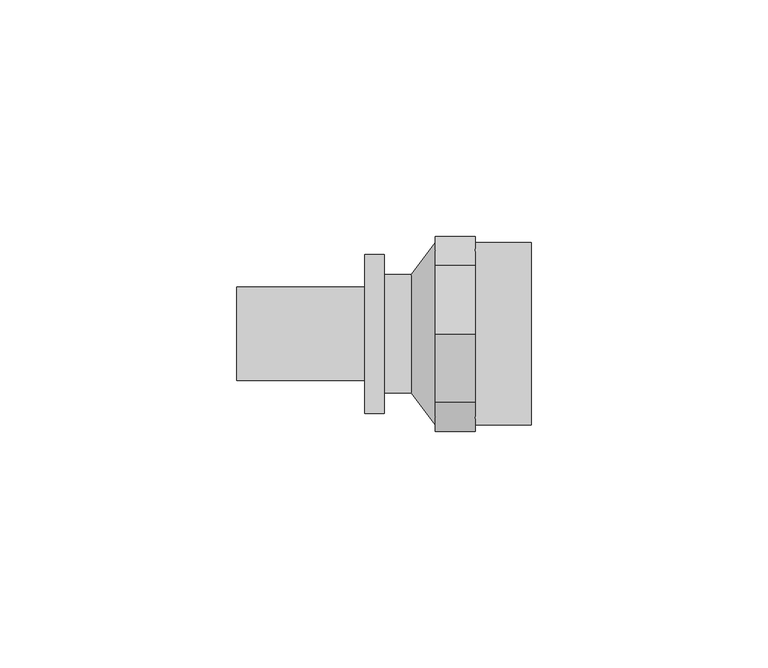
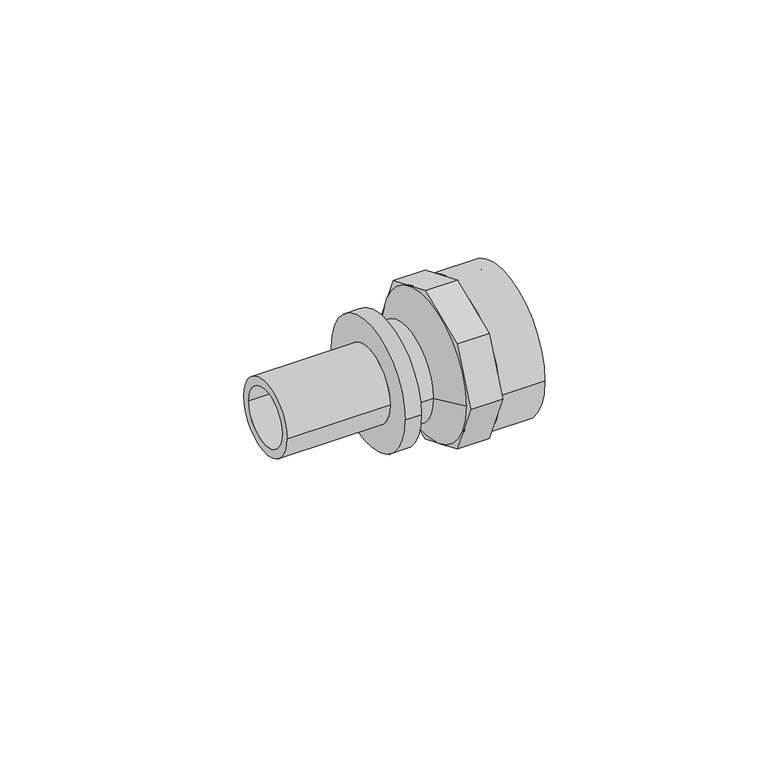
"""IFC4 building model written with IfcOpenShell, lengths in millimetres: pipe fitting geometry, REHAU_RAUTITAN_Adaptor_RX+, with internal thread : REHAU_RAUTITAN_Adaptor_RX+, with internal thread."""

from ifc_helpers import new_model, si_unit, point, frame, origin, origin_2d, place, context, project, spatial, polyline, circle_curve, trimmed, segment, composite_curve, outline, extrude, source, transform, mapped, element, save
from ifc_brep_helpers import plane_surface, cylinder_surface, revolved_surface, advanced_brep


def pipe_fitting_fd7b57f7(model_context):
    return source(origin(), model_context, "Body", "SolidModel", [
        extrude(outline(polyline([(-14.5419704, 14.5419704), (0.0, 20.5654518), (14.5419704, 14.5419704), (20.5654518, 0.0), (14.5419704, -14.5419704), (0.0, -20.5654518), (-14.5419704, -14.5419704), (-20.5654518, 0.0), (-14.5419704, 14.5419704)]), holes=[composite_curve([segment(trimmed(circle_curve(origin_2d(), 9.5), [point((-9.5, 0.0))], [point((9.5, 0.0))], True, "CARTESIAN"), True, "CONTINUOUS"), segment(trimmed(circle_curve(origin_2d(), 9.5), [point((9.5, 0.0))], [point((-9.5, 0.0))], True, "CARTESIAN"), True, "CONTINUOUS")], self_intersect=False)]), frame((-4.19, 0.0, 0.0), z_axis=(1.0, 0.0, 0.0), x_axis=(0.0, 1.0, 0.0)), (0.0, 0.0, 1.0), 8.38),
        extrude(outline(composite_curve([segment(trimmed(circle_curve(origin_2d(), 19.25), [point((-19.25, 0.0))], [point((19.25, 0.0))], False, "CARTESIAN"), True, "CONTINUOUS"), segment(trimmed(circle_curve(origin_2d(), 19.25), [point((19.25, 0.0))], [point((-19.25, 0.0))], False, "CARTESIAN"), True, "CONTINUOUS")], self_intersect=False), holes=[composite_curve([segment(trimmed(circle_curve(origin_2d(), 16.51), [point((-16.51, 0.0))], [point((16.51, 0.0))], True, "CARTESIAN"), True, "CONTINUOUS"), segment(trimmed(circle_curve(origin_2d(), 16.51), [point((16.51, 0.0))], [point((-16.51, 0.0))], True, "CARTESIAN"), True, "CONTINUOUS")], self_intersect=False)]), frame((4.19, 0.0, 0.0), z_axis=(1.0, 0.0, 0.0), x_axis=(0.0, 1.0, 0.0)), (0.0, 0.0, 1.0), 11.86),
        advanced_brep(
        [(-9.34, 12.5, 0.0), (-9.34, -12.5, 0.0), (-14.95, -12.5, 0.0), (-14.95, 12.5, 0.0), (-4.19, 19.25, 0.0), (-4.19, -19.25, 0.0), (-9.34, 9.0, 0.0), (-9.34, -9.0, 0.0), (-4.19, -16.51, 0.0), (-4.19, 16.51, 0.0), (-46.15, 7.6, 0.0), (-46.15, -7.6, 0.0), (-14.95, -7.6, 0.0), (-14.95, 7.6, 0.0), (-19.16, 9.875, 0.0), (-19.16, -9.875, 0.0), (-46.15, -9.875, 0.0), (-46.15, 9.875, 0.0), (-14.95, 16.795, 0.0), (-14.95, -16.795, 0.0), (-19.16, -16.795, 0.0), (-19.16, 16.795, 0.0)],
        [
            (0, 1, circle_curve(frame((-9.34, 0.0, 0.0), z_axis=(-1.0, 0.0, 0.0), x_axis=(0.0, -1.0, 0.0)), 12.5)),
            (1, 2),
            (2, 3, circle_curve(frame((-14.95, 0.0, 0.0), z_axis=(1.0, 0.0, 0.0), x_axis=(0.0, -1.0, 0.0)), 12.5)),
            (3, 0),
            (4, 5, circle_curve(frame((-4.19, 0.0, 0.0), z_axis=(-1.0, 0.0, 0.0), x_axis=(0.0, -1.0, 0.0)), 19.25)),
            (5, 1),
            (0, 4),
            (6, 7, circle_curve(frame((-9.34, 0.0, 0.0), z_axis=(-1.0, 0.0, 0.0), x_axis=(0.0, -1.0, 0.0)), 9.0)),
            (7, 8),
            (8, 9, circle_curve(frame((-4.19, 0.0, 0.0), z_axis=(1.0, 0.0, 0.0), x_axis=(0.0, -1.0, 0.0)), 16.51)),
            (9, 6),
            (10, 11, circle_curve(frame((-46.15, 0.0, 0.0), z_axis=(-1.0, 0.0, 0.0), x_axis=(0.0, -1.0, 0.0)), 7.6)),
            (11, 12),
            (12, 13, circle_curve(frame((-14.95, 0.0, 0.0), z_axis=(1.0, 0.0, 0.0), x_axis=(0.0, -1.0, 0.0)), 7.6)),
            (13, 10),
            (14, 15, circle_curve(frame((-19.16, 0.0, 0.0), z_axis=(-1.0, 0.0, 0.0), x_axis=(0.0, -1.0, 0.0)), 9.875)),
            (15, 16),
            (16, 17, circle_curve(frame((-46.15, 0.0, 0.0), z_axis=(1.0, 0.0, 0.0), x_axis=(0.0, -1.0, 0.0)), 9.875)),
            (17, 14),
            (18, 19, circle_curve(frame((-14.95, 0.0, 0.0), z_axis=(-1.0, 0.0, 0.0), x_axis=(0.0, -1.0, 0.0)), 16.795)),
            (19, 20),
            (20, 21, circle_curve(frame((-19.16, 0.0, 0.0), z_axis=(1.0, 0.0, 0.0), x_axis=(0.0, -1.0, 0.0)), 16.795)),
            (21, 18),
            (18, 19, circle_curve(frame((-14.95, 0.0, 0.0), z_axis=(1.0, 0.0, 0.0), x_axis=(0.0, 1.0, 0.0)), 16.795)),
            (2, 3, circle_curve(frame((-14.95, 0.0, 0.0), z_axis=(-1.0, 0.0, 0.0), x_axis=(0.0, 1.0, 0.0)), 12.5)),
            (1, 0, circle_curve(frame((-9.34, 0.0, 0.0), z_axis=(-1.0, 0.0, 0.0), x_axis=(0.0, 1.0, 0.0)), 12.5)),
            (5, 4, circle_curve(frame((-4.19, 0.0, 0.0), z_axis=(-1.0, 0.0, 0.0), x_axis=(0.0, 1.0, 0.0)), 19.25)),
            (7, 6, circle_curve(frame((-9.34, 0.0, 0.0), z_axis=(-1.0, 0.0, 0.0), x_axis=(0.0, 1.0, 0.0)), 9.0)),
            (9, 8, circle_curve(frame((-4.19, 0.0, 0.0), z_axis=(1.0, 0.0, 0.0), x_axis=(0.0, 1.0, 0.0)), 16.51)),
            (11, 10, circle_curve(frame((-46.15, 0.0, 0.0), z_axis=(-1.0, 0.0, 0.0), x_axis=(0.0, 1.0, 0.0)), 7.6)),
            (13, 12, circle_curve(frame((-14.95, 0.0, 0.0), z_axis=(1.0, 0.0, 0.0), x_axis=(0.0, 1.0, 0.0)), 7.6)),
            (16, 17, circle_curve(frame((-46.15, 0.0, 0.0), z_axis=(-1.0, 0.0, 0.0), x_axis=(0.0, 1.0, 0.0)), 9.875)),
            (15, 14, circle_curve(frame((-19.16, 0.0, 0.0), z_axis=(-1.0, 0.0, 0.0), x_axis=(0.0, 1.0, 0.0)), 9.875)),
            (20, 21, circle_curve(frame((-19.16, 0.0, 0.0), z_axis=(-1.0, 0.0, 0.0), x_axis=(0.0, 1.0, 0.0)), 16.795)),
            (12, 7),
            (6, 13),
        ],
        [
            cylinder_surface(frame((0.0, 0.0, 0.0), z_axis=(1.0, 0.0, 0.0), x_axis=(0.0, -1.0, 0.0)), 12.5),
            revolved_surface(polyline([(-9.34, -12.5, 0.0), (-4.19, -19.25, 0.0)]), (0.0, 0.0, 0.0), (1.0, 0.0, 0.0)),
            revolved_surface(polyline([(-4.19, -16.51, 0.0), (-9.34, -9.0, 0.0)]), (0.0, 0.0, 0.0), (1.0, 0.0, 0.0)),
            revolved_surface(polyline([(-14.95, -7.6, 0.0), (-46.15, -7.6, 0.0)]), (0.0, 0.0, 0.0), (1.0, 0.0, 0.0)),
            cylinder_surface(frame((0.0, 0.0, 0.0), z_axis=(1.0, 0.0, 0.0), x_axis=(0.0, -1.0, 0.0)), 9.875),
            cylinder_surface(frame((0.0, 0.0, 0.0), z_axis=(1.0, 0.0, 0.0), x_axis=(0.0, -1.0, 0.0)), 16.795),
            plane_surface(frame((-14.95, 0.0, 0.0), z_axis=(1.0, 0.0, 0.0), x_axis=(0.0, 1.0, 0.0))),
            cylinder_surface(frame((0.0, 0.0, 0.0), z_axis=(1.0, 0.0, 0.0), x_axis=(0.0, 1.0, 0.0)), 12.5),
            revolved_surface(polyline([(-9.34, 12.5, 0.0), (-4.19, 19.25, 0.0)]), (0.0, 0.0, 0.0), (1.0, 0.0, 0.0)),
            revolved_surface(polyline([(-4.19, 16.51, 0.0), (-9.34, 9.0, 0.0)]), (0.0, 0.0, 0.0), (1.0, 0.0, 0.0)),
            revolved_surface(polyline([(-14.95, 7.6, 0.0), (-46.15, 7.6, 0.0)]), (0.0, 0.0, 0.0), (1.0, 0.0, 0.0)),
            plane_surface(frame((-46.15, 0.0, 0.0), z_axis=(-1.0, 0.0, 0.0), x_axis=(0.0, 1.0, 0.0))),
            cylinder_surface(frame((0.0, 0.0, 0.0), z_axis=(1.0, 0.0, 0.0), x_axis=(0.0, 1.0, 0.0)), 9.875),
            plane_surface(frame((-19.16, 0.0, 0.0), z_axis=(-1.0, 0.0, 0.0), x_axis=(0.0, 1.0, 0.0))),
            cylinder_surface(frame((0.0, 0.0, 0.0), z_axis=(1.0, 0.0, 0.0), x_axis=(0.0, 1.0, 0.0)), 16.795),
            revolved_surface(polyline([(-9.34, -9.0, 0.0), (-14.95, -7.6, 0.0)]), (0.0, 0.0, 0.0), (1.0, 0.0, 0.0)),
            revolved_surface(polyline([(-9.34, 9.0, 0.0), (-14.95, 7.6, 0.0)]), (0.0, 0.0, 0.0), (1.0, 0.0, 0.0)),
            plane_surface(frame((-4.19, 0.0, 0.0), z_axis=(1.0, 0.0, 0.0), x_axis=(0.0, 1.0, 0.0))),
        ],
        [
            (0, [[1, 2, 3, 4]]),
            (1, [[5, 6, -1, 7]]),
            (2, [[8, 9, 10, 11]]),
            (3, [[12, 13, 14, 15]]),
            (4, [[16, 17, 18, 19]]),
            (5, [[20, 21, 22, 23]]),
            (6, [[24, -20], [25, -3]]),
            (7, [[26, -4, -25, -2]]),
            (8, [[27, -7, -26, -6]]),
            (9, [[28, -11, 29, -9]]),
            (10, [[30, -15, 31, -13]]),
            (11, [[32, -18], [-30, -12]]),
            (12, [[33, -19, -32, -17]]),
            (13, [[34, -22], [-33, -16]]),
            (14, [[-24, -23, -34, -21]]),
            (15, [[-14, 35, -8, 36]]),
            (16, [[-31, -36, -28, -35]]),
            (17, [[-27, -5], [-29, -10]]),
        ],
    ),
    ])


if __name__ == "__main__":
    model = new_model("IFC4")
    model_context = context("Model", 3, world=origin())
    ifc_project = project(units=[si_unit("LENGTHUNIT", "METRE", prefix="MILLI")], contexts=[model_context])
    site = spatial("IfcSite", under=ifc_project)
    building = spatial("IfcBuilding", under=site)
    placement = place(None, origin())
    pipe_fitting_shape = pipe_fitting_fd7b57f7(model_context)
    element("IfcPipeFitting", 1, ObjectType="REHAU_RAUTITAN_Adaptor_RX+, with internal thread : REHAU_RAUTITAN_Adaptor_RX+, with internal thread", at=placement, inside=building, context=model_context, shape_type="MappedRepresentation", body=[
        mapped(pipe_fitting_shape, transform((0.0, 0.0, 0.0), x_axis=(1.0, 0.0, 0.0), y_axis=(0.0, 1.0, 0.0), z_axis=(0.0, 0.0, 1.0))),
    ])
    save(model, "model.ifc")
